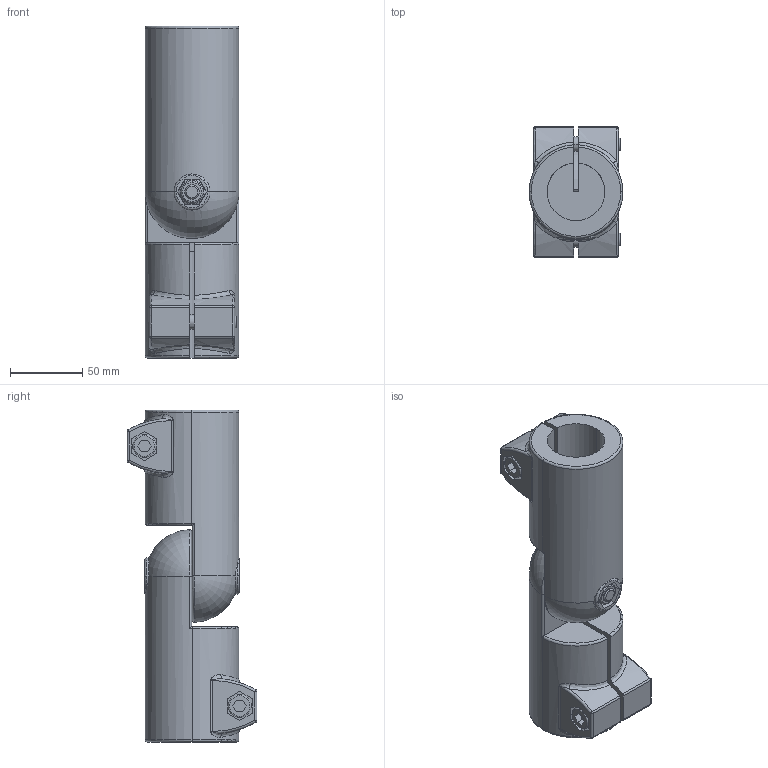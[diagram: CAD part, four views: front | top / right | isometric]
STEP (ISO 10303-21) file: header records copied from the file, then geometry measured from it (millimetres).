
FILE_DESCRIPTION (( 'STEP AP214' ), '1' );
FILE_NAME ('286-B40-B40-S-2-BL.step', '2021-12-02T12:15:16', ( '' ), ( '' ), 'SwSTEP 2.0', 'SolidWorks 2019', '' );
FILE_SCHEMA (( 'AUTOMOTIVE_DESIGN' ));
Length unit declared in the file: millimetre
Products named in the file (3): WB276_1^WB286_B40-MZ-2-BL; 286-B40-B40-S-2-BL; WB276^WB286_B40-IV-2-BL
Assembly tree (2 placements, depth 2):
  286-B40-B40-S-2-BL
    WB276^WB286_B40-IV-2-BL
    WB276_1^WB286_B40-MZ-2-BL
Bounding box: 65 x 90 x 230 mm (x, y, z)
Volume: 571676.8 mm3; surface area: 108633.7 mm2
Topology: 2 solids, 2 shells, 401 faces, 968 edges, 590 vertices
Faces by surface type: plane 195, cylinder 108, torus 46, cone 24, bspline 20, sphere 8
Entity records: 15770 total; most frequent: CARTESIAN_POINT 5474, ORIENTED_EDGE 1920, DIRECTION 1880, EDGE_CURVE 960, AXIS2_PLACEMENT_3D 738, VERTEX_POINT 590, EDGE_LOOP 434, LINE 404
